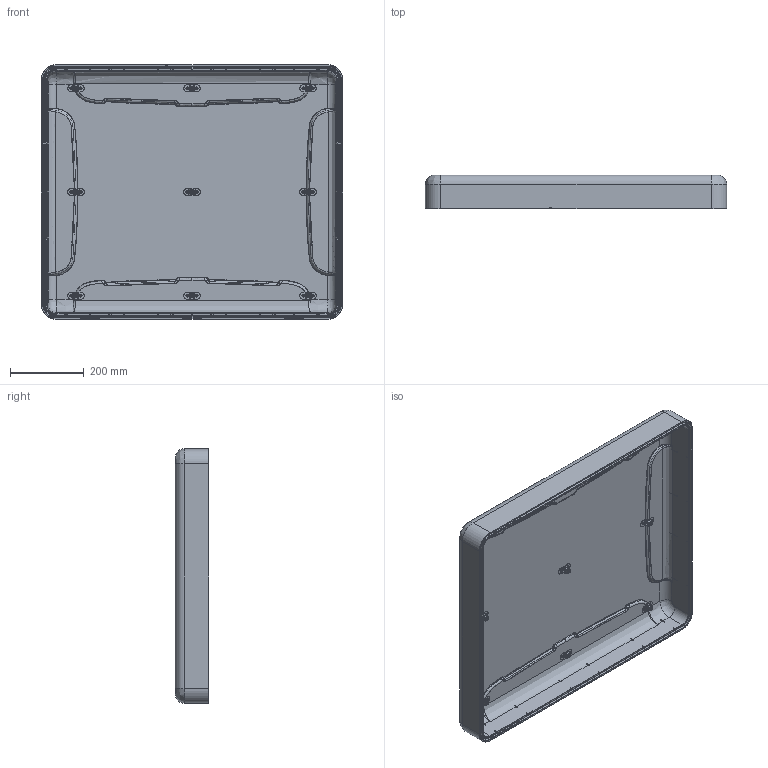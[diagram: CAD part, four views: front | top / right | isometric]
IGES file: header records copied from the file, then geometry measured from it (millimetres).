
Start section: SolidWorks IGES file using analytic representation for surfaces
Global section: file name: M:\NANUK\Solidworks\3D\Cases\976\4 - 3D FILES\5 - INNER SURFACES\NANUK 976 TOP_Inner Surfaces.IGS; native system: SolidWorks 2022; preprocessor: SolidWorks 2022; author: jgauthier; date: 240710.132218; units: inch
Bounding box: 816.55 x 90.81 x 689.55 mm (x, y, z)
Surface area: 1599541.1 mm2 (no closed solid volume)
Topology: 0 solids, 0 shells, 2011 faces, 23956 edges, 23944 vertices
Faces by surface type: bspline 1479, revolution 532
